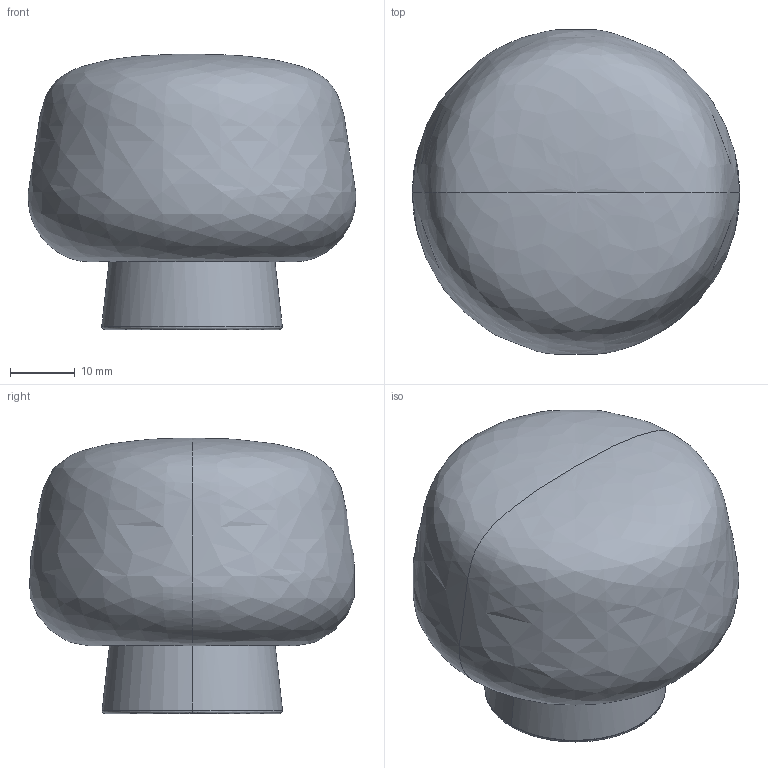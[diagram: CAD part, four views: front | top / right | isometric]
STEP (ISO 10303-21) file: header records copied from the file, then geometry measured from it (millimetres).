
FILE_DESCRIPTION(/* description */ (''),/* implementation_level */ '2;1');
FILE_NAME(/* name */ 'Pebosto stop',/* time_stamp */ '2025-07-18T11:45:52+02:00',/* author */ (''),/* organization */ (''),/* preprocessor_version */ 'ST-DEVELOPER v16.5',/* originating_system */ 'Rhino 7.37',/* authorisation */ '');
FILE_SCHEMA (('AUTOMOTIVE_DESIGN'));
Length unit declared in the file: millimetre
Products named in the file (1): Document
Bounding box: 50.54 x 50.09 x 42.5 mm (x, y, z)
Volume: 56955.2 mm3; surface area: 12271.5 mm2
Topology: 2 solids, 2 shells, 25 faces, 50 edges, 29 vertices
Faces by surface type: bspline 12, cylinder 8, plane 5
Entity records: 1080 total; most frequent: CARTESIAN_POINT 728, ORIENTED_EDGE 96, EDGE_CURVE 48, EDGE_LOOP 29, VERTEX_POINT 29, ADVANCED_FACE 25, FACE_OUTER_BOUND 25, DIRECTION 17
